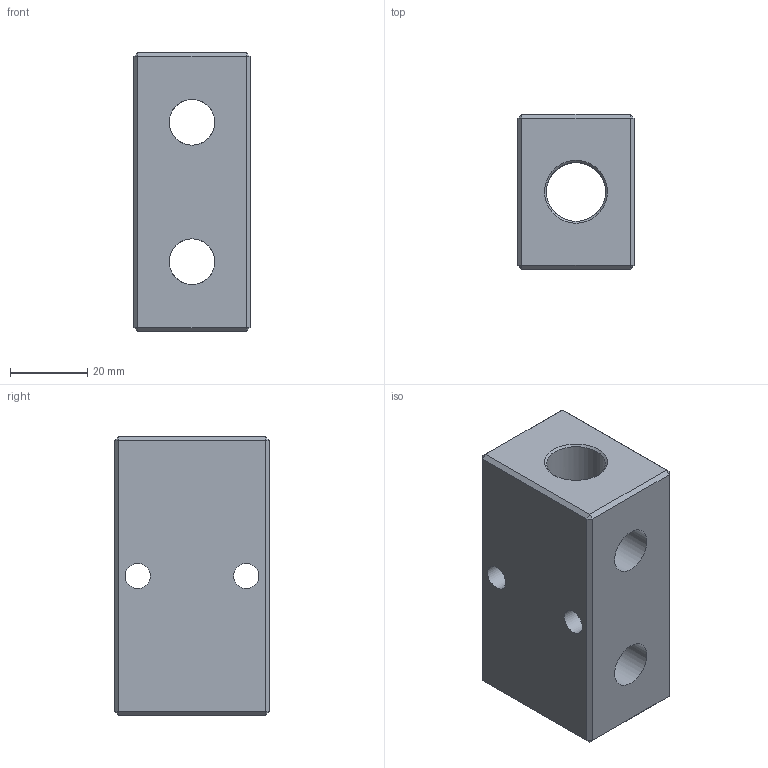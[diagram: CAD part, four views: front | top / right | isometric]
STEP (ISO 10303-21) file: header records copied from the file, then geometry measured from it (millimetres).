
FILE_DESCRIPTION(/* description */ (''),/* implementation_level */ '2;1');
FILE_NAME(/* name */ 'BXH88 2B3 04B2.stp',/* time_stamp */ '2024-11-15T14:26:02+01:00',/* author */ ('freju'),/* organization */ (''),/* preprocessor_version */ 'ST-DEVELOPER v20',/* originating_system */ 'Autodesk Inventor 2025',/* authorisation */ '');
FILE_SCHEMA (('AUTOMOTIVE_DESIGN { 1 0 10303 214 3 1 1 }'));
Length unit declared in the file: millimetre
Products named in the file (1): BXH87 2B3 02B2
Bounding box: 30 x 40 x 72 mm (x, y, z)
Volume: 65270.9 mm3; surface area: 17384.4 mm2
Topology: 1 solids, 1 shells, 37 faces, 80 edges, 45 vertices
Faces by surface type: plane 26, cylinder 7, cone 4
Full cylindrical faces by diameter (mm): 6.5 x2, 11.8 x4, 15.25 x1
Entity records: 1198 total; most frequent: CARTESIAN_POINT 327, DIRECTION 169, ORIENTED_EDGE 160, EDGE_CURVE 80, LINE 59, VECTOR 59, AXIS2_PLACEMENT_3D 55, EDGE_LOOP 51
